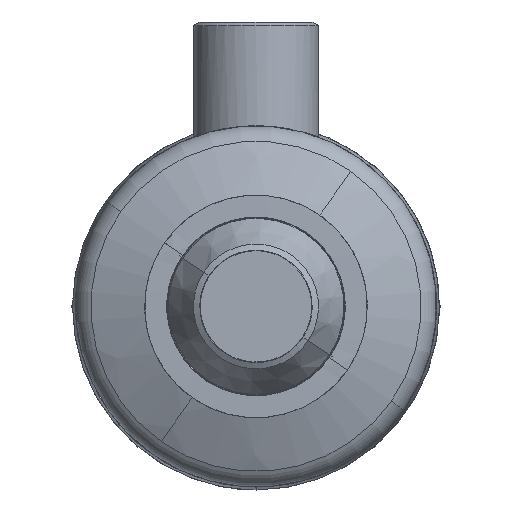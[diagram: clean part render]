
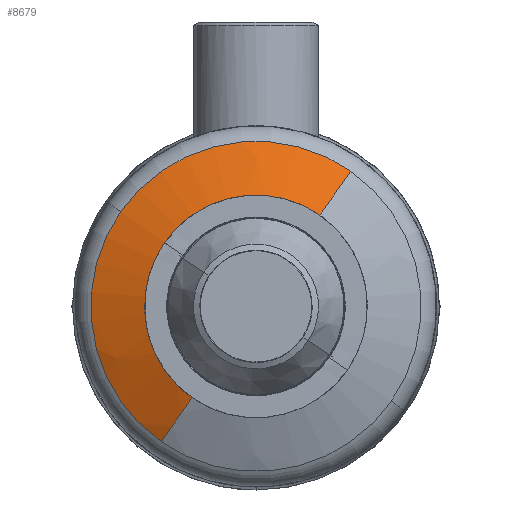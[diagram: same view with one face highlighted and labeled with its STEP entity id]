
A CAD part, front view. The second image highlights one B-rep face of the part: STEP entity #8679.
In plain terms, the highlighted spherical face has radius 145.7 mm.
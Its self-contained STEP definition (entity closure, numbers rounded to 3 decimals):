
#1904 = VERTEX_POINT ( 'NONE', #10243 ) ;
#2217 = EDGE_CURVE ( 'NONE', #6294, #4466, #10841, .T. ) ;
#2270 = EDGE_CURVE ( 'NONE', #7628, #8119, #10878, .T. ) ;
#2821 = ORIENTED_EDGE ( 'NONE', *, *, #2217, .T. ) ;
#3072 = CARTESIAN_POINT ( 'NONE',  ( -63.85, 130.964, 0. ) ) ;
#3127 = ORIENTED_EDGE ( 'NONE', *, *, #5411, .T. ) ;
#4081 = CIRCLE ( 'NONE', #4082, 43.08 ) ;
#4082 = AXIS2_PLACEMENT_3D ( 'NONE', #4083, #4084, #4085 ) ;
#4083 = CARTESIAN_POINT ( 'NONE',  ( 0., 139.186, 0. ) ) ;
#4084 = DIRECTION ( 'NONE',  ( 0., -1., 0. ) ) ;
#4085 = DIRECTION ( 'NONE',  ( 0., 0., -1. ) ) ;
#4466 = VERTEX_POINT ( 'NONE', #3072 ) ;
#4778 = CIRCLE ( 'NONE', #4779, 43.08 ) ;
#4779 = AXIS2_PLACEMENT_3D ( 'NONE', #4782, #4783, #4784 ) ;
#4782 = CARTESIAN_POINT ( 'NONE',  ( 0., 139.186, 0. ) ) ;
#4783 = DIRECTION ( 'NONE',  ( 0., -1., 0. ) ) ;
#4784 = DIRECTION ( 'NONE',  ( 0., 0., -1. ) ) ;
#5018 = CARTESIAN_POINT ( 'NONE',  ( -43.08, 139.186, 0. ) ) ;
#5213 = FACE_OUTER_BOUND ( 'NONE', #8607, .T. ) ;
#5214 = SPHERICAL_SURFACE ( 'NONE', #5215, 145.7 ) ;
#5215 = AXIS2_PLACEMENT_3D ( 'NONE', #5216, #5217, #5218 ) ;
#5216 = CARTESIAN_POINT ( 'NONE',  ( 0., 0., 0. ) ) ;
#5217 = DIRECTION ( 'NONE',  ( 0., 0., 1. ) ) ;
#5218 = DIRECTION ( 'NONE',  ( 1., 0., 0. ) ) ;
#5411 = EDGE_CURVE ( 'NONE', #10179, #6294, #4081, .T. ) ;
#5590 = CIRCLE ( 'NONE', #5591, 145.7 ) ;
#5591 = AXIS2_PLACEMENT_3D ( 'NONE', #5592, #5593, #5594 ) ;
#5592 = CARTESIAN_POINT ( 'NONE',  ( 0., 0., 0. ) ) ;
#5593 = DIRECTION ( 'NONE',  ( 0., 0., -1. ) ) ;
#5594 = DIRECTION ( 'NONE',  ( -1., 0., 0. ) ) ;
#6057 = EDGE_CURVE ( 'NONE', #1904, #10179, #4778, .T. ) ;
#6272 = CARTESIAN_POINT ( 'NONE',  ( 63.85, 130.964, 0. ) ) ;
#6294 = VERTEX_POINT ( 'NONE', #5018 ) ;
#6593 = CARTESIAN_POINT ( 'NONE',  ( 0., 139.186, 43.08 ) ) ;
#7083 = EDGE_CURVE ( 'NONE', #1904, #7628, #5590, .T. ) ;
#7247 = ORIENTED_EDGE ( 'NONE', *, *, #7083, .F. ) ;
#7628 = VERTEX_POINT ( 'NONE', #6272 ) ;
#8083 = ORIENTED_EDGE ( 'NONE', *, *, #2270, .F. ) ;
#8119 = VERTEX_POINT ( 'NONE', #11110 ) ;
#8147 = EDGE_CURVE ( 'NONE', #8119, #4466, #11289, .T. ) ;
#8195 = ORIENTED_EDGE ( 'NONE', *, *, #8147, .F. ) ;
#8607 = EDGE_LOOP ( 'NONE', ( #9775, #3127, #2821, #8195, #8083, #7247 ) ) ;
#8679 = ADVANCED_FACE ( 'NONE', ( #5213 ), #5214, .T. ) ;
#9775 = ORIENTED_EDGE ( 'NONE', *, *, #6057, .T. ) ;
#10179 = VERTEX_POINT ( 'NONE', #6593 ) ;
#10243 = CARTESIAN_POINT ( 'NONE',  ( 43.08, 139.186, 0. ) ) ;
#10841 = CIRCLE ( 'NONE', #10842, 145.7 ) ;
#10842 = AXIS2_PLACEMENT_3D ( 'NONE', #10843, #10844, #10845 ) ;
#10843 = CARTESIAN_POINT ( 'NONE',  ( 0., 0., 0. ) ) ;
#10844 = DIRECTION ( 'NONE',  ( 0., 0., 1. ) ) ;
#10845 = DIRECTION ( 'NONE',  ( 1., 0., 0. ) ) ;
#10878 = CIRCLE ( 'NONE', #10879, 63.85 ) ;
#10879 = AXIS2_PLACEMENT_3D ( 'NONE', #10880, #10885, #10886 ) ;
#10880 = CARTESIAN_POINT ( 'NONE',  ( 0., 130.964, 0. ) ) ;
#10885 = DIRECTION ( 'NONE',  ( 0., -1., 0. ) ) ;
#10886 = DIRECTION ( 'NONE',  ( 0., 0., -1. ) ) ;
#11110 = CARTESIAN_POINT ( 'NONE',  ( 0., 130.964, 63.85 ) ) ;
#11289 = CIRCLE ( 'NONE', #11290, 63.85 ) ;
#11290 = AXIS2_PLACEMENT_3D ( 'NONE', #11291, #11292, #11295 ) ;
#11291 = CARTESIAN_POINT ( 'NONE',  ( 0., 130.964, 0. ) ) ;
#11292 = DIRECTION ( 'NONE',  ( 0., -1., 0. ) ) ;
#11295 = DIRECTION ( 'NONE',  ( 0., 0., -1. ) ) ;
